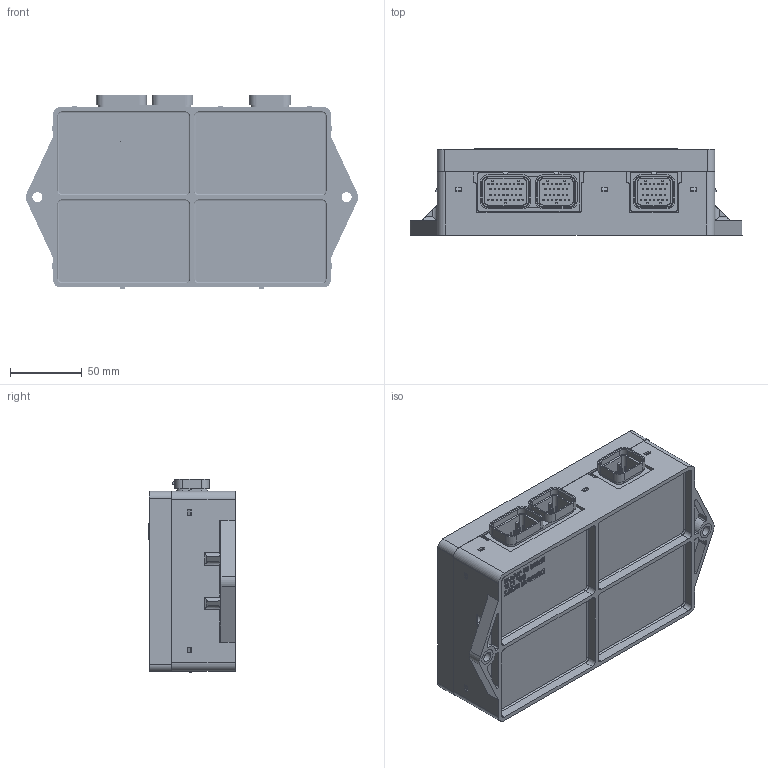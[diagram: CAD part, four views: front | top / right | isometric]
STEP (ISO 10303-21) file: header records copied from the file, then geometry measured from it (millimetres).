
FILE_DESCRIPTION((''),'2;1');
FILE_NAME('164200-1082X_ASM','2020-06-04T',('IB46307'),('YANMAR CO., LTD.'),'PRO/ENGINEER BY PARAMETRIC TECHNOLOGY CORPORATION, 2017170','PRO/ENGINEER BY PARAMETRIC TECHNOLOGY CORPORATION, 2017170','');
FILE_SCHEMA(('CONFIG_CONTROL_DESIGN'));
Products named in the file (16): 164200-1082X-ECU-1; 164200-1082X-ECU-2; 164200-1082X-ECU-3; 164200-1082X-ECU-4; 164200-1082X-ECU-5; 164200-1082X-ECU-6; 164200-1082X-ECU-7; 164200-1082X-ECU-8; 164200-1082X-ECU-9; 164200-1082X-ECU-10; 164200-1082X-ECU-11; 164200-1082X-ECU_ASM; 164200-1082X-COVER-1; 164200-1082X-COVER-2; 164200-1082X-COVER_ASM; 164200-1082X_ASM
Assembly tree (20 placements, depth 3):
  164200-1082X_ASM
    164200-1082X-ECU_ASM
      164200-1082X-ECU-1
      164200-1082X-ECU-2  x2
      164200-1082X-ECU-3
      164200-1082X-ECU-4
      164200-1082X-ECU-5
      164200-1082X-ECU-6
      164200-1082X-ECU-7  x3
      164200-1082X-ECU-8
      164200-1082X-ECU-9
      164200-1082X-ECU-10
      164200-1082X-ECU-11  x3
    164200-1082X-COVER_ASM
      164200-1082X-COVER-1
      164200-1082X-COVER-2
Bounding box: 231.94 x 60.5 x 135.4 mm (x, y, z)
Volume: 611311.1 mm3; surface area: 440101.3 mm2
Topology: 18 solids, 20 shells, 4758 faces, 11940 edges, 7561 vertices
Faces by surface type: cylinder 2247, plane 1733, bspline 388, extrusion 246, torus 102, sphere 30, cone 12
Entity records: 158910 total; most frequent: CARTESIAN_POINT 44197, DIRECTION 23744, ORIENTED_EDGE 23660, EDGE_CURVE 11838, AXIS2_PLACEMENT_3D 8580, VERTEX_POINT 7531, VECTOR 6584, LINE 6338
